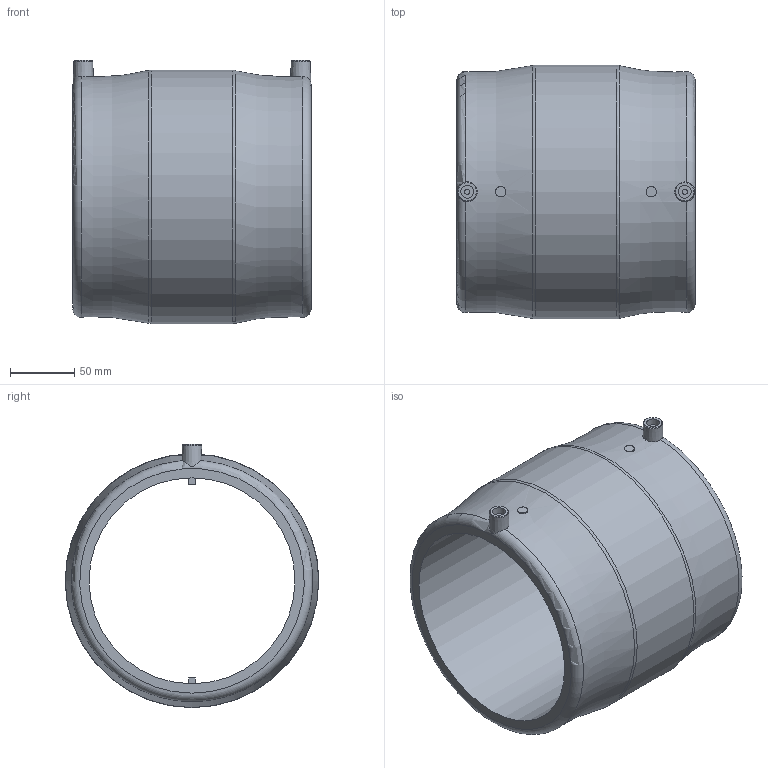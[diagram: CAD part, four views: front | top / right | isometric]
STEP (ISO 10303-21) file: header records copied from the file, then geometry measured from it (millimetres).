
FILE_DESCRIPTION(/* description */ ('Unknown'),/* implementation_level */ '2;1');
FILE_NAME(/* name */ 'MP160C',/* time_stamp */ '2021-02-10T16:49:43+01:00',/* author */ ('Unknown'),/* organization */ ('Unknown'),/* preprocessor_version */ 'ST-DEVELOPER v16.7',/* originating_system */ 'Solid Edge',/* authorisation */ 'Unknown');
FILE_SCHEMA (('AUTOMOTIVE_DESIGN {1 0 10303 214 3 1 1}'));
Length unit declared in the file: millimetre
Products named in the file (1): MP160C
Bounding box: 185 x 197 x 204.5 mm (x, y, z)
Volume: 1621603.2 mm3; surface area: 219252.2 mm2
Topology: 1 solids, 1 shells, 42 faces, 100 edges, 66 vertices
Faces by surface type: plane 20, cylinder 12, torus 8, cone 2
Full cylindrical faces by diameter (mm): 4 x2, 8 x2, 10 x2, 160 x1, 197 x1
Entity records: 1092 total; most frequent: CARTESIAN_POINT 233, DIRECTION 182, ORIENTED_EDGE 132, AXIS2_PLACEMENT_3D 79, EDGE_LOOP 70, FACE_BOUND 70, EDGE_CURVE 66, VERTEX_POINT 52
